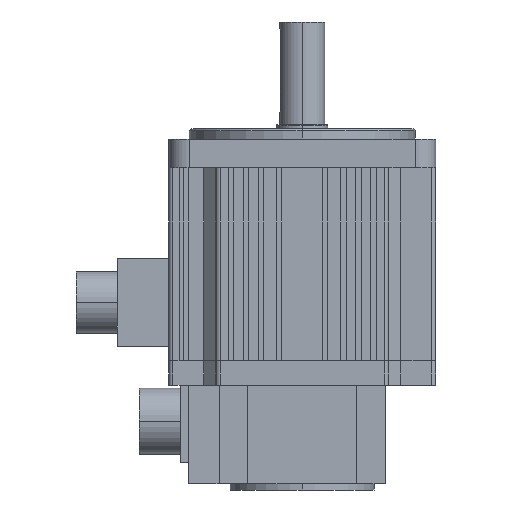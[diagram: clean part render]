
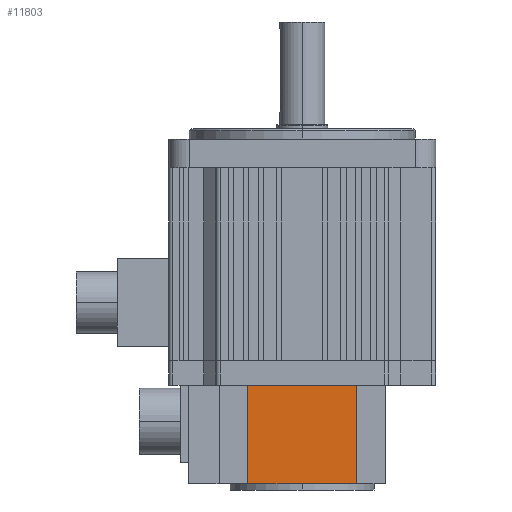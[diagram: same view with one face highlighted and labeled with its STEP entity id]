
A CAD part, left-side view. The second image highlights one B-rep face of the part: STEP entity #11803.
In plain terms, the highlighted planar face has unit normal (-1, 0, 0) as drawn and (1, 0, 0) by its records, which use the part's own axes.
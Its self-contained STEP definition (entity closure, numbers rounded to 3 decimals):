
#37 = EDGE_CURVE ( 'NONE', #2645, #8546, #15208, .T. ) ;
#291 = CARTESIAN_POINT ( 'NONE',  ( 81., 67., 0. ) ) ;
#899 = DIRECTION ( 'NONE',  ( 0., 0., -1. ) ) ;
#1331 = EDGE_CURVE ( 'NONE', #12918, #7496, #10059, .T. ) ;
#2064 = CARTESIAN_POINT ( 'NONE',  ( 81., 14., -48. ) ) ;
#2130 = ORIENTED_EDGE ( 'NONE', *, *, #4407, .T. ) ;
#2645 = VERTEX_POINT ( 'NONE', #11650 ) ;
#4057 = EDGE_LOOP ( 'NONE', ( #14519, #15964, #9539, #2130 ) ) ;
#4407 = EDGE_CURVE ( 'NONE', #8546, #7496, #12406, .T. ) ;
#4754 = DIRECTION ( 'NONE',  ( 0., 0., 1. ) ) ;
#5479 = AXIS2_PLACEMENT_3D ( 'NONE', #12889, #8802, #899 ) ;
#7496 = VERTEX_POINT ( 'NONE', #291 ) ;
#8317 = VECTOR ( 'NONE', #12052, 1000. ) ;
#8546 = VERTEX_POINT ( 'NONE', #11036 ) ;
#8684 = VECTOR ( 'NONE', #9142, 1000. ) ;
#8696 = CARTESIAN_POINT ( 'NONE',  ( 81., 14., 0. ) ) ;
#8802 = DIRECTION ( 'NONE',  ( 1., 0., 0. ) ) ;
#9142 = DIRECTION ( 'NONE',  ( 0., 1., 0. ) ) ;
#9539 = ORIENTED_EDGE ( 'NONE', *, *, #37, .T. ) ;
#9737 = FACE_OUTER_BOUND ( 'NONE', #4057, .T. ) ;
#10059 = LINE ( 'NONE', #12829, #16596 ) ;
#10563 = VECTOR ( 'NONE', #4754, 1000. ) ;
#10762 = LINE ( 'NONE', #2064, #10563 ) ;
#11036 = CARTESIAN_POINT ( 'NONE',  ( 81., 67., -48. ) ) ;
#11650 = CARTESIAN_POINT ( 'NONE',  ( 81., 14., -48. ) ) ;
#11675 = EDGE_CURVE ( 'NONE', #2645, #12918, #10762, .T. ) ;
#11803 = ADVANCED_FACE ( 'NONE', ( #9737 ), #15451, .T. ) ;
#11989 = CARTESIAN_POINT ( 'NONE',  ( 81., 67., -48. ) ) ;
#12052 = DIRECTION ( 'NONE',  ( 0., 0., 1. ) ) ;
#12406 = LINE ( 'NONE', #11989, #8317 ) ;
#12829 = CARTESIAN_POINT ( 'NONE',  ( 81., 14., 0. ) ) ;
#12889 = CARTESIAN_POINT ( 'NONE',  ( 81., 14., -48. ) ) ;
#12918 = VERTEX_POINT ( 'NONE', #8696 ) ;
#14221 = CARTESIAN_POINT ( 'NONE',  ( 81., 14., -48. ) ) ;
#14256 = DIRECTION ( 'NONE',  ( 0., 1., 0. ) ) ;
#14519 = ORIENTED_EDGE ( 'NONE', *, *, #1331, .F. ) ;
#15208 = LINE ( 'NONE', #14221, #8684 ) ;
#15451 = PLANE ( 'NONE',  #5479 ) ;
#15964 = ORIENTED_EDGE ( 'NONE', *, *, #11675, .F. ) ;
#16596 = VECTOR ( 'NONE', #14256, 1000. ) ;
